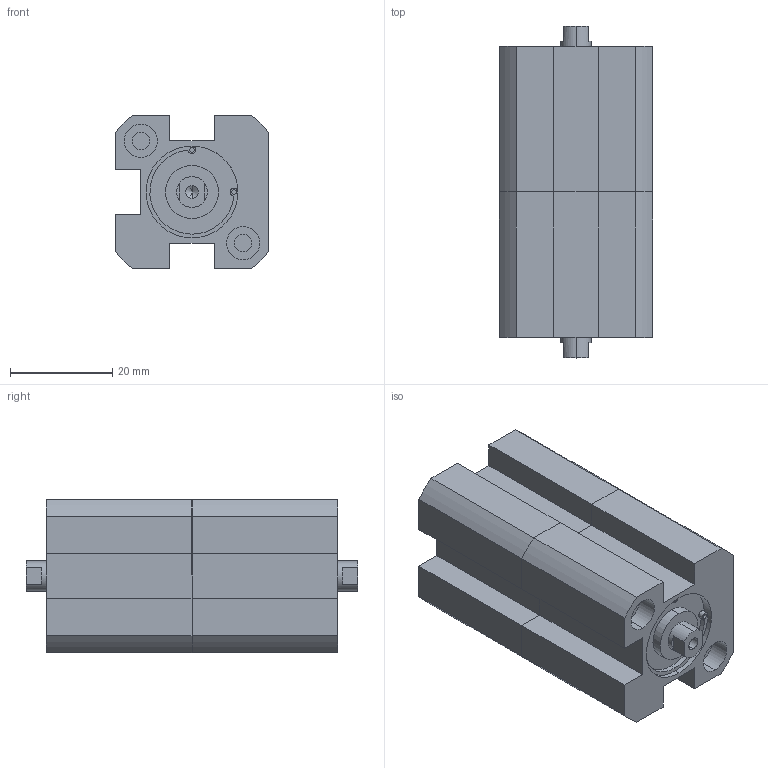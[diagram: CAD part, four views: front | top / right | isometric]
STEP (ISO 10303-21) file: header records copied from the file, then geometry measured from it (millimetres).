
FILE_DESCRIPTION (( 'STEP AP203' ), '1' );
FILE_NAME ('XCD7-16-10-10.STEP', '2016-08-05T01:38:02', ( '' ), ( '' ), 'SwSTEP 2.0', 'SolidWorks 2014', '' );
FILE_SCHEMA (( 'CONFIG_CONTROL_DESIGN' ));
Length unit declared in the file: millimetre
Products named in the file (2): XC#2-16-10; XCD7-16-10-10
Assembly tree (2 placements, depth 2):
  XCD7-16-10-10
    XC#2-16-10  x2
Bounding box: 30 x 65 x 30 mm (x, y, z)
Volume: 39626.7 mm3; surface area: 13841.3 mm2
Topology: 2 solids, 2 shells, 154 faces, 382 edges, 244 vertices
Faces by surface type: cylinder 78, plane 64, cone 12
Entity records: 2506 total; most frequent: DIRECTION 432, CARTESIAN_POINT 389, ORIENTED_EDGE 370, EDGE_CURVE 185, AXIS2_PLACEMENT_3D 165, VERTEX_POINT 122, VECTOR 102, LINE 102
